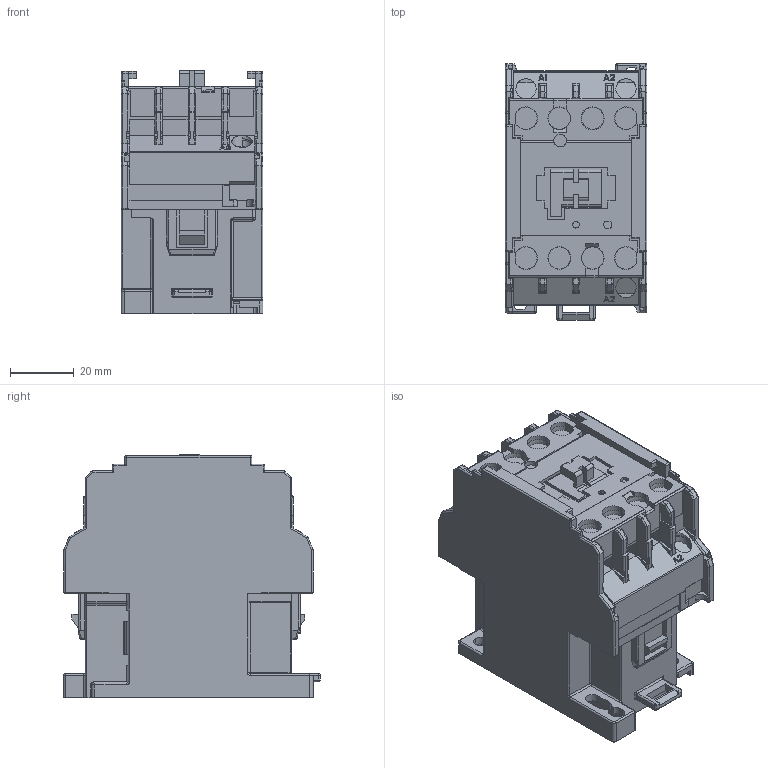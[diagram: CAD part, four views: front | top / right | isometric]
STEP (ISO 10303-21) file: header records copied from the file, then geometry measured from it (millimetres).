
FILE_DESCRIPTION (( 'STEP AP214' ), '1' );
FILE_NAME ('RSC12-300.STEP', '2024-04-15T09:06:16', ( '' ), ( '' ), 'SwSTEP 2.0', 'SolidWorks 2022', '' );
FILE_SCHEMA (( 'AUTOMOTIVE_DESIGN' ));
Length unit declared in the file: millimetre
Products named in the file (1): RSC12-300
Bounding box: 44.7 x 80.75 x 76.55 mm (x, y, z)
Volume: 193004.8 mm3; surface area: 35061.1 mm2
Topology: 1 solids, 4 shells, 1470 faces, 4085 edges, 2588 vertices
Faces by surface type: plane 1004, cylinder 380, sphere 30, bspline 19, cone 19, torus 18
Entity records: 51375 total; most frequent: CARTESIAN_POINT 12294, ORIENTED_EDGE 8102, DIRECTION 7135, EDGE_CURVE 4051, VECTOR 3237, LINE 3237, VERTEX_POINT 2588, AXIS2_PLACEMENT_3D 1949
